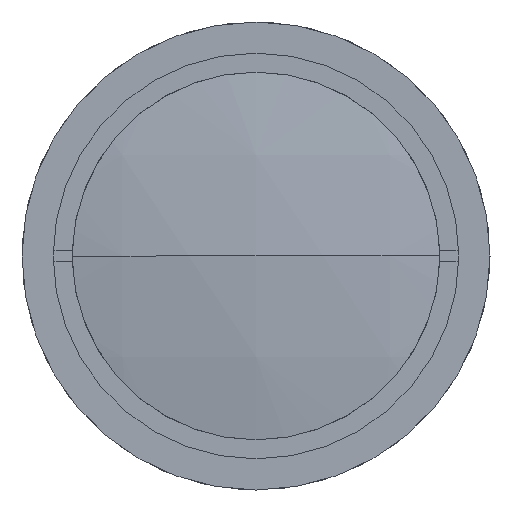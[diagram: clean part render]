
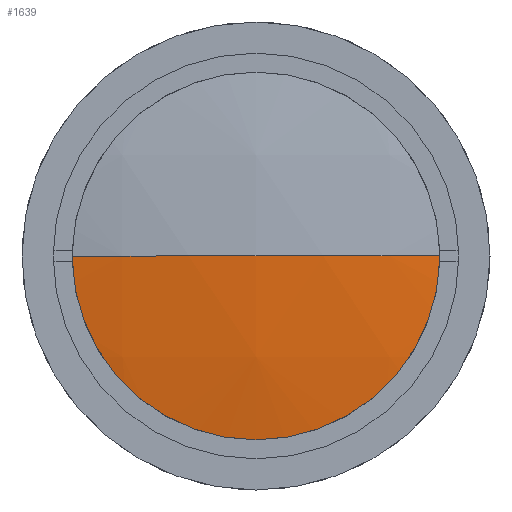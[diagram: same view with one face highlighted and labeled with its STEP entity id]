
A CAD part, left-side view. The second image highlights one B-rep face of the part: STEP entity #1639.
In plain terms, the highlighted spherical face has radius 100.18 mm.
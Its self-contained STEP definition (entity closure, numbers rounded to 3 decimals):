
#60 = VERTEX_POINT ( 'NONE', #140 ) ;
#140 = CARTESIAN_POINT ( 'NONE',  ( 4.912, 18., 0. ) ) ;
#351 = DIRECTION ( 'NONE',  ( 0., 1., 0. ) ) ;
#436 = ORIENTED_EDGE ( 'NONE', *, *, #3629, .T. ) ;
#886 = AXIS2_PLACEMENT_3D ( 'NONE', #1573, #3665, #1876 ) ;
#893 = AXIS2_PLACEMENT_3D ( 'NONE', #2746, #926, #3051 ) ;
#899 = AXIS2_PLACEMENT_3D ( 'NONE', #3653, #1864, #3932 ) ;
#915 = ORIENTED_EDGE ( 'NONE', *, *, #3634, .F. ) ;
#926 = DIRECTION ( 'NONE',  ( -1., 0., 0. ) ) ;
#969 = EDGE_LOOP ( 'NONE', ( #436, #1855, #915 ) ) ;
#987 = VERTEX_POINT ( 'NONE', #1540 ) ;
#1344 = CARTESIAN_POINT ( 'NONE',  ( 103.461, 0., 0. ) ) ;
#1540 = CARTESIAN_POINT ( 'NONE',  ( 3.281, 0., 0. ) ) ;
#1573 = CARTESIAN_POINT ( 'NONE',  ( 103.461, 0., 0. ) ) ;
#1639 = ADVANCED_FACE ( 'NONE', ( #2425 ), #2458, .T. ) ;
#1848 = AXIS2_PLACEMENT_3D ( 'NONE', #1344, #1959, #351 ) ;
#1855 = ORIENTED_EDGE ( 'NONE', *, *, #3614, .T. ) ;
#1864 = DIRECTION ( 'NONE',  ( 0., 0., -1. ) ) ;
#1876 = DIRECTION ( 'NONE',  ( 0., -1., 0. ) ) ;
#1959 = DIRECTION ( 'NONE',  ( 0., 0., -1. ) ) ;
#2425 = FACE_OUTER_BOUND ( 'NONE', #969, .T. ) ;
#2458 = SPHERICAL_SURFACE ( 'NONE', #1848, 100.18 ) ;
#2746 = CARTESIAN_POINT ( 'NONE',  ( 4.912, 0., 0. ) ) ;
#3051 = DIRECTION ( 'NONE',  ( 0., 0., 1. ) ) ;
#3206 = CARTESIAN_POINT ( 'NONE',  ( 4.912, -18., 0. ) ) ;
#3288 = VERTEX_POINT ( 'NONE', #3206 ) ;
#3522 = CIRCLE ( 'NONE', #886, 100.18 ) ;
#3554 = CIRCLE ( 'NONE', #899, 100.18 ) ;
#3614 = EDGE_CURVE ( 'NONE', #3288, #987, #3554, .T. ) ;
#3622 = CIRCLE ( 'NONE', #893, 18. ) ;
#3629 = EDGE_CURVE ( 'NONE', #60, #3288, #3622, .T. ) ;
#3634 = EDGE_CURVE ( 'NONE', #60, #987, #3522, .T. ) ;
#3653 = CARTESIAN_POINT ( 'NONE',  ( 103.461, 0., 0. ) ) ;
#3665 = DIRECTION ( 'NONE',  ( 0., 0., 1. ) ) ;
#3932 = DIRECTION ( 'NONE',  ( 0., 1., 0. ) ) ;
